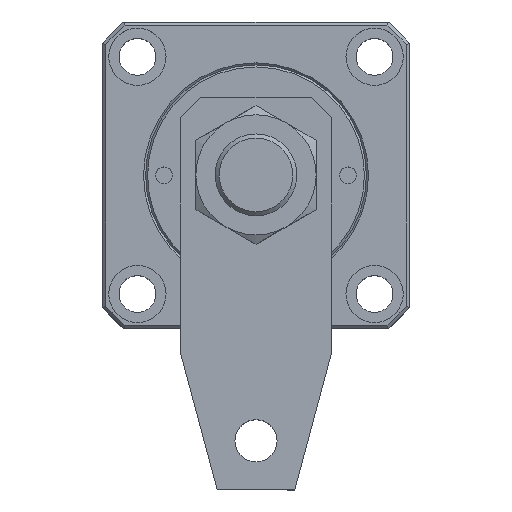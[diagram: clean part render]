
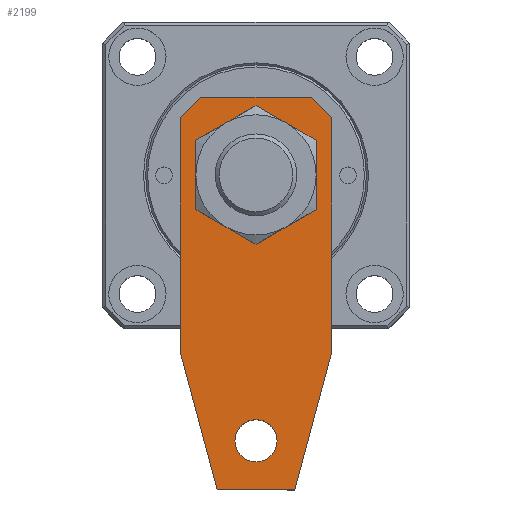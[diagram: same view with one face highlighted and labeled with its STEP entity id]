
A CAD part, top view. The second image highlights one B-rep face of the part: STEP entity #2199.
In plain terms, the highlighted planar face has unit normal (0, 0, 1).
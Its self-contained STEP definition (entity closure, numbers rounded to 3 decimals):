
#109=LINE('',#3319,#163);
#113=LINE('',#3328,#167);
#116=LINE('',#3334,#170);
#119=LINE('',#3340,#173);
#122=LINE('',#3346,#176);
#125=LINE('',#3352,#179);
#128=LINE('',#3358,#182);
#131=LINE('',#3364,#185);
#163=VECTOR('',#2784,1000.);
#167=VECTOR('',#2790,1000.);
#170=VECTOR('',#2795,1000.);
#173=VECTOR('',#2800,1000.);
#176=VECTOR('',#2805,1000.);
#179=VECTOR('',#2810,1000.);
#182=VECTOR('',#2815,1000.);
#185=VECTOR('',#2820,1000.);
#259=PLANE('',#2400);
#597=ORIENTED_EDGE('',*,*,#788,.F.);
#598=ORIENTED_EDGE('',*,*,#789,.F.);
#599=ORIENTED_EDGE('',*,*,#762,.T.);
#600=ORIENTED_EDGE('',*,*,#766,.T.);
#601=ORIENTED_EDGE('',*,*,#769,.T.);
#602=ORIENTED_EDGE('',*,*,#772,.T.);
#603=ORIENTED_EDGE('',*,*,#775,.T.);
#604=ORIENTED_EDGE('',*,*,#778,.T.);
#605=ORIENTED_EDGE('',*,*,#781,.T.);
#606=ORIENTED_EDGE('',*,*,#784,.T.);
#762=EDGE_CURVE('',#897,#898,#109,.T.);
#766=EDGE_CURVE('',#898,#901,#113,.T.);
#769=EDGE_CURVE('',#901,#903,#116,.T.);
#772=EDGE_CURVE('',#903,#905,#119,.T.);
#775=EDGE_CURVE('',#905,#907,#122,.T.);
#778=EDGE_CURVE('',#907,#909,#125,.T.);
#781=EDGE_CURVE('',#909,#911,#128,.T.);
#784=EDGE_CURVE('',#911,#897,#131,.T.);
#788=EDGE_CURVE('',#915,#915,#998,.T.);
#789=EDGE_CURVE('',#916,#916,#999,.T.);
#897=VERTEX_POINT('',#3320);
#898=VERTEX_POINT('',#3321);
#901=VERTEX_POINT('',#3329);
#903=VERTEX_POINT('',#3335);
#905=VERTEX_POINT('',#3341);
#907=VERTEX_POINT('',#3347);
#909=VERTEX_POINT('',#3353);
#911=VERTEX_POINT('',#3359);
#915=VERTEX_POINT('',#3373);
#916=VERTEX_POINT('',#3375);
#998=CIRCLE('',#2401,5.15);
#999=CIRCLE('',#2402,10.5);
#1157=EDGE_LOOP('',(#597));
#1158=EDGE_LOOP('',(#598));
#1159=EDGE_LOOP('',(#599,#600,#601,#602,#603,#604,#605,#606));
#1323=FACE_BOUND('',#1157,.T.);
#1324=FACE_BOUND('',#1158,.T.);
#1325=FACE_BOUND('',#1159,.T.);
#2199=ADVANCED_FACE('',(#1323,#1324,#1325),#259,.F.);
#2400=AXIS2_PLACEMENT_3D('',#3371,#2828,#2829);
#2401=AXIS2_PLACEMENT_3D('',#3372,#2830,#2831);
#2402=AXIS2_PLACEMENT_3D('',#3374,#2832,#2833);
#2784=DIRECTION('',(-0.707,0.707,0.));
#2790=DIRECTION('',(-1.,0.,0.));
#2795=DIRECTION('',(-0.966,-0.259,0.));
#2800=DIRECTION('',(0.,-1.,0.));
#2805=DIRECTION('',(0.966,-0.259,0.));
#2810=DIRECTION('',(1.,0.,0.));
#2815=DIRECTION('',(0.707,0.707,0.));
#2820=DIRECTION('',(0.,1.,0.));
#2828=DIRECTION('',(0.,0.,-1.));
#2829=DIRECTION('',(0.,1.,0.));
#2830=DIRECTION('',(0.,0.,1.));
#2831=DIRECTION('',(1.,0.,0.));
#2832=DIRECTION('',(0.,0.,1.));
#2833=DIRECTION('',(1.,0.,0.));
#3319=CARTESIAN_POINT('',(43.,37.,10.));
#3320=CARTESIAN_POINT('',(48.,32.,10.));
#3321=CARTESIAN_POINT('',(43.,37.,10.));
#3328=CARTESIAN_POINT('',(43.,37.,10.));
#3329=CARTESIAN_POINT('',(-14.412,37.,10.));
#3334=CARTESIAN_POINT('',(-48.,28.,10.));
#3335=CARTESIAN_POINT('',(-48.,28.,10.));
#3340=CARTESIAN_POINT('',(-48.,28.,10.));
#3341=CARTESIAN_POINT('',(-48.,9.,10.));
#3346=CARTESIAN_POINT('',(-48.,9.,10.));
#3347=CARTESIAN_POINT('',(-14.412,0.,10.));
#3352=CARTESIAN_POINT('',(-14.412,0.,10.));
#3353=CARTESIAN_POINT('',(43.,0.,10.));
#3358=CARTESIAN_POINT('',(43.,0.,10.));
#3359=CARTESIAN_POINT('',(48.,5.,10.));
#3364=CARTESIAN_POINT('',(48.,5.,10.));
#3371=CARTESIAN_POINT('',(0.,0.,10.));
#3372=CARTESIAN_POINT('',(-36.,18.5,10.));
#3373=CARTESIAN_POINT('',(-30.85,18.5,10.));
#3374=CARTESIAN_POINT('',(29.,18.5,10.));
#3375=CARTESIAN_POINT('',(39.5,18.5,10.));
